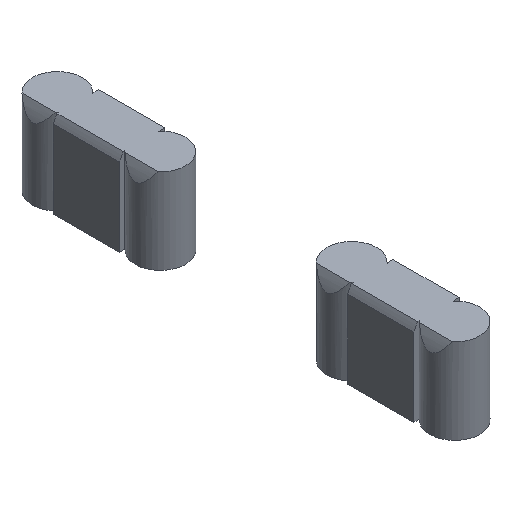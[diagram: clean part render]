
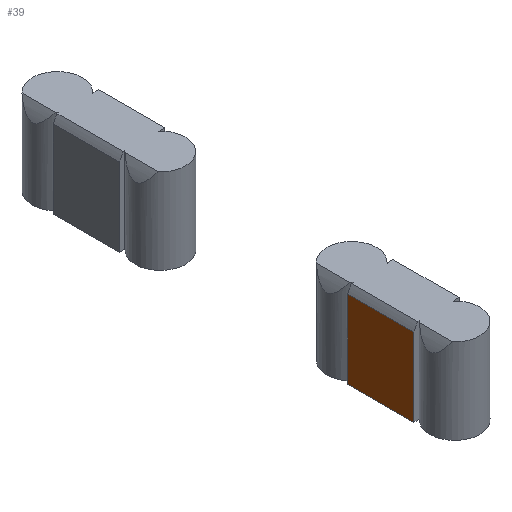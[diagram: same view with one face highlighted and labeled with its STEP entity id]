
A CAD part, isometric view. The second image highlights one B-rep face of the part: STEP entity #39.
In plain terms, the highlighted planar face has unit normal (-1, 0, 0).
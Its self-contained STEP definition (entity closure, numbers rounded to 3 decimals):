
#39 = ADVANCED_FACE('',(#40),#54,.F.);
#40 = FACE_BOUND('',#41,.F.);
#41 = EDGE_LOOP('',(#42,#77,#105,#133));
#42 = ORIENTED_EDGE('',*,*,#43,.F.);
#43 = EDGE_CURVE('',#44,#46,#48,.T.);
#44 = VERTEX_POINT('',#45);
#45 = CARTESIAN_POINT('',(-38.05,-12.5,-16.6));
#46 = VERTEX_POINT('',#47);
#47 = CARTESIAN_POINT('',(-38.05,-12.5,-5.987));
#48 = SURFACE_CURVE('',#49,(#53,#65),.PCURVE_S1.);
#49 = LINE('',#50,#51);
#50 = CARTESIAN_POINT('',(-38.05,-12.5,-16.6));
#51 = VECTOR('',#52,1.);
#52 = DIRECTION('',(0.,0.,1.));
#53 = PCURVE('',#54,#59);
#54 = PLANE('',#55);
#55 = AXIS2_PLACEMENT_3D('',#56,#57,#58);
#56 = CARTESIAN_POINT('',(-38.05,-12.5,-16.6));
#57 = DIRECTION('',(1.,0.,-0.));
#58 = DIRECTION('',(0.,0.,1.));
#59 = DEFINITIONAL_REPRESENTATION('',(#60),#64);
#60 = LINE('',#61,#62);
#61 = CARTESIAN_POINT('',(0.,0.));
#62 = VECTOR('',#63,1.);
#63 = DIRECTION('',(1.,0.));
#64 = ( GEOMETRIC_REPRESENTATION_CONTEXT(2) 
PARAMETRIC_REPRESENTATION_CONTEXT() REPRESENTATION_CONTEXT('2D SPACE',''
  ) );
#65 = PCURVE('',#66,#71);
#66 = PLANE('',#67);
#67 = AXIS2_PLACEMENT_3D('',#68,#69,#70);
#68 = CARTESIAN_POINT('',(-38.05,-12.5,-16.6));
#69 = DIRECTION('',(-0.,1.,0.));
#70 = DIRECTION('',(0.,0.,1.));
#71 = DEFINITIONAL_REPRESENTATION('',(#72),#76);
#72 = LINE('',#73,#74);
#73 = CARTESIAN_POINT('',(0.,0.));
#74 = VECTOR('',#75,1.);
#75 = DIRECTION('',(1.,0.));
#76 = ( GEOMETRIC_REPRESENTATION_CONTEXT(2) 
PARAMETRIC_REPRESENTATION_CONTEXT() REPRESENTATION_CONTEXT('2D SPACE',''
  ) );
#77 = ORIENTED_EDGE('',*,*,#78,.T.);
#78 = EDGE_CURVE('',#44,#79,#81,.T.);
#79 = VERTEX_POINT('',#80);
#80 = CARTESIAN_POINT('',(-38.05,-3.5,-16.6));
#81 = SURFACE_CURVE('',#82,(#86,#93),.PCURVE_S1.);
#82 = LINE('',#83,#84);
#83 = CARTESIAN_POINT('',(-38.05,-12.5,-16.6));
#84 = VECTOR('',#85,1.);
#85 = DIRECTION('',(-0.,1.,0.));
#86 = PCURVE('',#54,#87);
#87 = DEFINITIONAL_REPRESENTATION('',(#88),#92);
#88 = LINE('',#89,#90);
#89 = CARTESIAN_POINT('',(0.,0.));
#90 = VECTOR('',#91,1.);
#91 = DIRECTION('',(0.,-1.));
#92 = ( GEOMETRIC_REPRESENTATION_CONTEXT(2) 
PARAMETRIC_REPRESENTATION_CONTEXT() REPRESENTATION_CONTEXT('2D SPACE',''
  ) );
#93 = PCURVE('',#94,#99);
#94 = PLANE('',#95);
#95 = AXIS2_PLACEMENT_3D('',#96,#97,#98);
#96 = CARTESIAN_POINT('',(-38.05,-12.5,-16.6));
#97 = DIRECTION('',(0.,0.,1.));
#98 = DIRECTION('',(1.,0.,-0.));
#99 = DEFINITIONAL_REPRESENTATION('',(#100),#104);
#100 = LINE('',#101,#102);
#101 = CARTESIAN_POINT('',(0.,0.));
#102 = VECTOR('',#103,1.);
#103 = DIRECTION('',(0.,1.));
#104 = ( GEOMETRIC_REPRESENTATION_CONTEXT(2) 
PARAMETRIC_REPRESENTATION_CONTEXT() REPRESENTATION_CONTEXT('2D SPACE',''
  ) );
#105 = ORIENTED_EDGE('',*,*,#106,.T.);
#106 = EDGE_CURVE('',#79,#107,#109,.T.);
#107 = VERTEX_POINT('',#108);
#108 = CARTESIAN_POINT('',(-38.05,-3.5,-5.987));
#109 = SURFACE_CURVE('',#110,(#114,#121),.PCURVE_S1.);
#110 = LINE('',#111,#112);
#111 = CARTESIAN_POINT('',(-38.05,-3.5,-16.6));
#112 = VECTOR('',#113,1.);
#113 = DIRECTION('',(0.,0.,1.));
#114 = PCURVE('',#54,#115);
#115 = DEFINITIONAL_REPRESENTATION('',(#116),#120);
#116 = LINE('',#117,#118);
#117 = CARTESIAN_POINT('',(0.,-9.));
#118 = VECTOR('',#119,1.);
#119 = DIRECTION('',(1.,0.));
#120 = ( GEOMETRIC_REPRESENTATION_CONTEXT(2) 
PARAMETRIC_REPRESENTATION_CONTEXT() REPRESENTATION_CONTEXT('2D SPACE',''
  ) );
#121 = PCURVE('',#122,#127);
#122 = PLANE('',#123);
#123 = AXIS2_PLACEMENT_3D('',#124,#125,#126);
#124 = CARTESIAN_POINT('',(-38.05,-3.5,-16.6));
#125 = DIRECTION('',(-0.,1.,0.));
#126 = DIRECTION('',(0.,0.,1.));
#127 = DEFINITIONAL_REPRESENTATION('',(#128),#132);
#128 = LINE('',#129,#130);
#129 = CARTESIAN_POINT('',(0.,0.));
#130 = VECTOR('',#131,1.);
#131 = DIRECTION('',(1.,0.));
#132 = ( GEOMETRIC_REPRESENTATION_CONTEXT(2) 
PARAMETRIC_REPRESENTATION_CONTEXT() REPRESENTATION_CONTEXT('2D SPACE',''
  ) );
#133 = ORIENTED_EDGE('',*,*,#134,.F.);
#134 = EDGE_CURVE('',#46,#107,#135,.T.);
#135 = SURFACE_CURVE('',#136,(#140,#146),.PCURVE_S1.);
#136 = LINE('',#137,#138);
#137 = CARTESIAN_POINT('',(-38.05,-60.,-5.987));
#138 = VECTOR('',#139,1.);
#139 = DIRECTION('',(0.,1.,0.));
#140 = PCURVE('',#54,#141);
#141 = DEFINITIONAL_REPRESENTATION('',(#142),#145);
#142 = B_SPLINE_CURVE_WITH_KNOTS('',1,(#143,#144),.UNSPECIFIED.,.F.,.F.,
  (2,2),(46.6,57.4),.PIECEWISE_BEZIER_KNOTS.);
#143 = CARTESIAN_POINT('',(10.613,0.9));
#144 = CARTESIAN_POINT('',(10.613,-9.9));
#145 = ( GEOMETRIC_REPRESENTATION_CONTEXT(2) 
PARAMETRIC_REPRESENTATION_CONTEXT() REPRESENTATION_CONTEXT('2D SPACE',''
  ) );
#146 = PCURVE('',#147,#152);
#147 = CYLINDRICAL_SURFACE('',#148,9.9);
#148 = AXIS2_PLACEMENT_3D('',#149,#150,#151);
#149 = CARTESIAN_POINT('',(-29.,-60.,-10.));
#150 = DIRECTION('',(0.,1.,0.));
#151 = DIRECTION('',(0.,-0.,1.));
#152 = DEFINITIONAL_REPRESENTATION('',(#153),#156);
#153 = B_SPLINE_CURVE_WITH_KNOTS('',1,(#154,#155),.UNSPECIFIED.,.F.,.F.,
  (2,2),(46.6,57.4),.PIECEWISE_BEZIER_KNOTS.);
#154 = CARTESIAN_POINT('',(5.13,46.6));
#155 = CARTESIAN_POINT('',(5.13,57.4));
#156 = ( GEOMETRIC_REPRESENTATION_CONTEXT(2) 
PARAMETRIC_REPRESENTATION_CONTEXT() REPRESENTATION_CONTEXT('2D SPACE',''
  ) );
